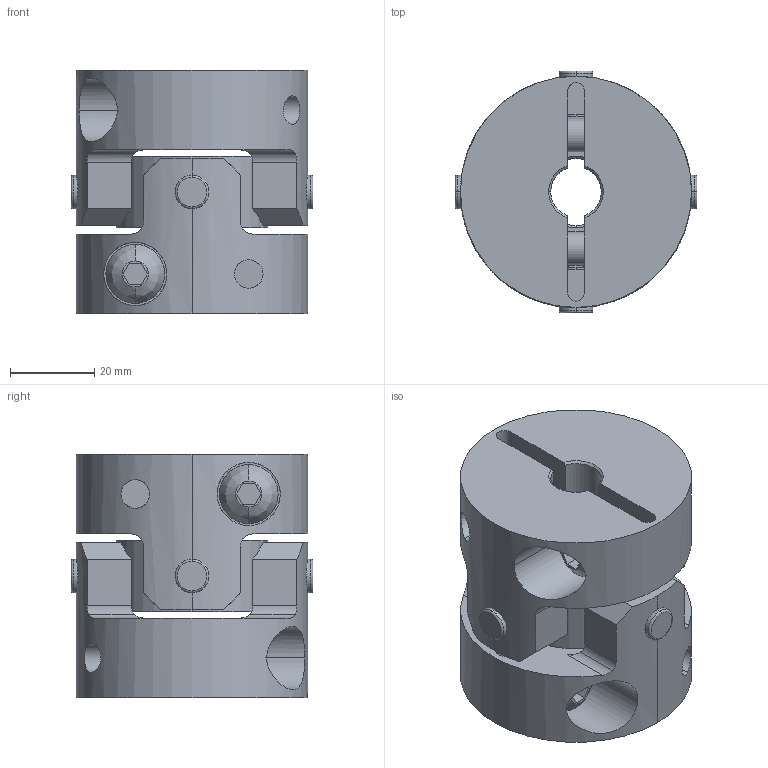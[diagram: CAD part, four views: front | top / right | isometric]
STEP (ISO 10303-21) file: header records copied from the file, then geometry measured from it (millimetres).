
FILE_DESCRIPTION((''),'2;1');
FILE_NAME('UA-55C-12×16.stp','2013-05-22T12:02:25',(''),(''),'AutoCAD STEP 2000i','AutoCAD 2000i',', , ');
FILE_SCHEMA(('CONFIG_CONTROL_DESIGN'));
Length unit declared in the file: millimetre
Products named in the file (6): UA-55C-10×10; 忣兜1; UA-5502-D10-1; BTN-M8; UA-5502-D10; UA55-SEN
Assembly tree (6 placements, depth 3):
  UA-55C-10×10
    忣兜1
    UA-5502-D10-1
      BTN-M8
    UA-5502-D10
      BTN-M8
    UA55-SEN
Bounding box: 57.55 x 57.55 x 58 mm (x, y, z)
Volume: 99502.6 mm3; surface area: 31818.2 mm2
Topology: 1 solids, 1 shells, 206 faces, 554 edges, 364 vertices
Faces by surface type: cylinder 96, plane 78, cone 16, bspline 8, torus 8
Entity records: 8383 total; most frequent: CARTESIAN_POINT 3067, ORIENTED_EDGE 1108, DIRECTION 1064, EDGE_CURVE 554, AXIS2_PLACEMENT_3D 409, VERTEX_POINT 364, VECTOR 246, LINE 246
